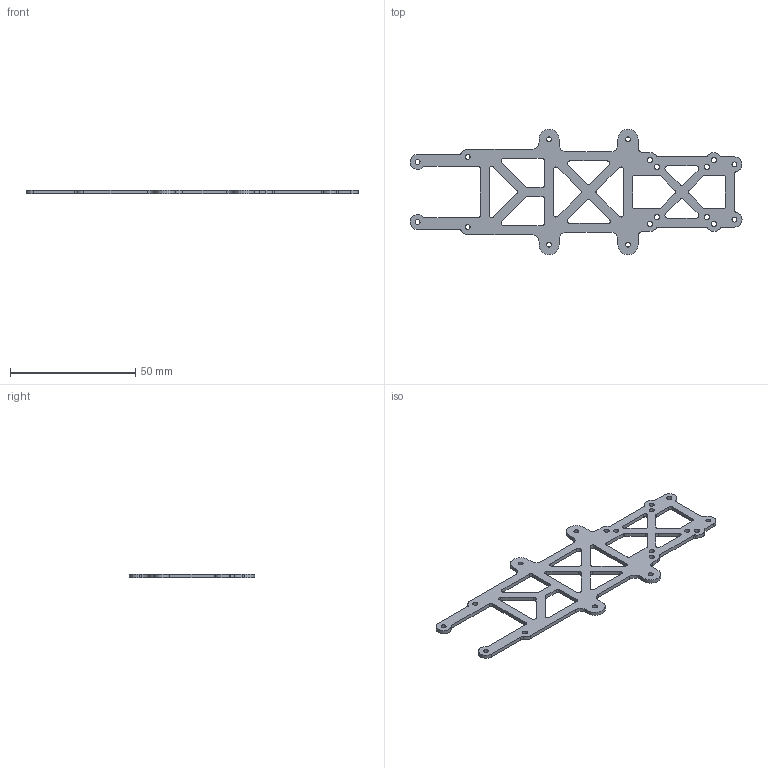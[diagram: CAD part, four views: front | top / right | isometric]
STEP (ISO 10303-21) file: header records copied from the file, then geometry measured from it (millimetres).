
FILE_DESCRIPTION(/* description */ ('','CAx-IF Rec.Pracs.---Representation and Presentation of Product Manufacturing Information (PMI)---4.0---2014-10-13'),/* implementation_level */ '2;1');
FILE_NAME(/* name */ 'GoFlyPro - 3.5Z - Topplate-V2.step',/* time_stamp */ '2025-03-18T07:49:23+01:00',/* author */ (''),/* organization */ (''),/* preprocessor_version */ 'ST-DEVELOPER v20',/* originating_system */ 'Autodesk Translation Framework v13.20.0.188',/* authorisation */ '');
FILE_SCHEMA (('AP242_MANAGED_MODEL_BASED_3D_ENGINEERING_MIM_LF { 1 0 10303 442 1 1 4 }'));
Length unit declared in the file: millimetre
Products named in the file (1): GoFlyPro - 3.5Z - Topplate-V2
Bounding box: 132.5 x 50 x 1.5 mm (x, y, z)
Volume: 3553 mm3; surface area: 6311.6 mm2
Topology: 1 solids, 1 shells, 158 faces, 468 edges, 312 vertices
Faces by surface type: cylinder 93, plane 65
Full cylindrical faces by diameter (mm): 2 x10, 2.1 x8
Entity records: 5507 total; most frequent: DIRECTION 972, CARTESIAN_POINT 939, ORIENTED_EDGE 936, EDGE_CURVE 468, AXIS2_PLACEMENT_3D 345, VERTEX_POINT 312, LINE 282, VECTOR 282
